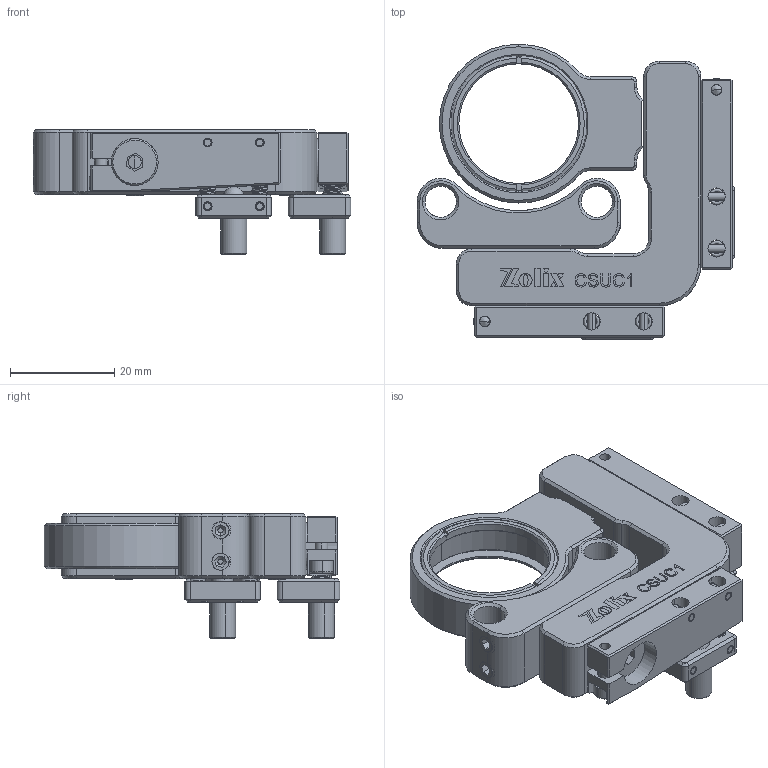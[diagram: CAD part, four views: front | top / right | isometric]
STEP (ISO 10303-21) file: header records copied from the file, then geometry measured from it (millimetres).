
FILE_DESCRIPTION (( 'STEP AP203' ), '1' );
FILE_NAME ('CSUC1.STEP', '2024-06-19T06:43:29', ( '' ), ( '' ), 'SwSTEP 2.0', 'SolidWorks 2021', '' );
FILE_SCHEMA (( 'CONFIG_CONTROL_DESIGN' ));
Length unit declared in the file: millimetre
Products named in the file (1): CSUC1
Bounding box: 61 x 56.75 x 24 mm (x, y, z)
Surface area: 14883.6 mm2 (no closed solid volume)
Topology: 0 solids, 56 shells, 664 faces, 2136 edges, 1459 vertices
Faces by surface type: plane 316, cone 166, cylinder 138, bspline 20, torus 20, sphere 4
Entity records: 38084 total; most frequent: CARTESIAN_POINT 19614, DIRECTION 3830, ORIENTED_EDGE 3428, EDGE_CURVE 2106, VERTEX_POINT 1453, VECTOR 1324, LINE 1324, AXIS2_PLACEMENT_3D 1253
